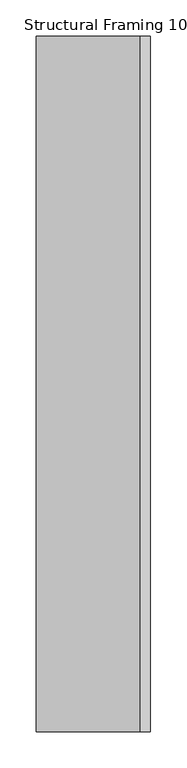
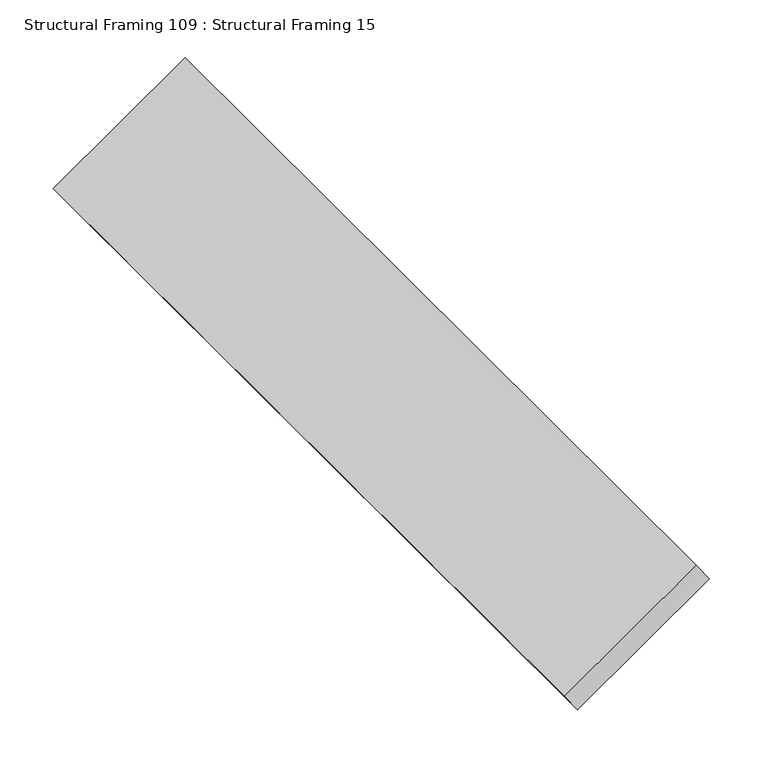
"""IFC4 building model written with IfcOpenShell, lengths in millimetres: beam geometry, Structural Framing 109 : Structural Framing 15."""

from ifc_helpers import new_model, si_unit, frame, origin, place, context, project, spatial, polyline, outline, extrude, source, transform, mapped, element, save


def structural_framing_109_structural_framing_15_08dff260(model_context):
    return source(origin(), model_context, "Body", "SweptSolid", [
        extrude(outline(polyline([(0.0, -174.3446796), (0.0, 0.0), (958.4556079, 0.0), (958.4556079, -174.3446796), (0.0, -174.3446796)])), frame((1206.7789073, 3925.5508021, 2800.0), z_axis=(-0.5735764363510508, 0.0, 0.8191520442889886), x_axis=(0.0, -1.0, 0.0)), (0.0, 0.0, 1.0), 25.0),
    ])


if __name__ == "__main__":
    model = new_model("IFC4")
    model_context = context("Model", 3, world=origin())
    ifc_project = project(units=[si_unit("LENGTHUNIT", "METRE", prefix="MILLI")], contexts=[model_context])
    site = spatial("IfcSite", under=ifc_project)
    building = spatial("IfcBuilding", under=site)
    placement = place(None, origin())
    structural_framing_109_structural_framing_15_shape = structural_framing_109_structural_framing_15_08dff260(model_context)
    element("IfcBeam", 1, ObjectType="Structural Framing 109 : Structural Framing 15", at=placement, inside=building, context=model_context, shape_type="MappedRepresentation", body=[
        mapped(structural_framing_109_structural_framing_15_shape, transform((0.0, 0.0, 0.0), x_axis=(1.0, 0.0, 0.0), y_axis=(0.0, 1.0, 0.0), z_axis=(0.0, 0.0, 1.0))),
    ])
    save(model, "model.ifc")
